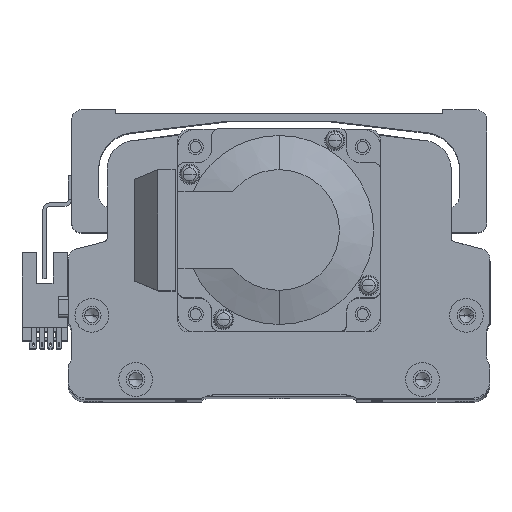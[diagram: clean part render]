
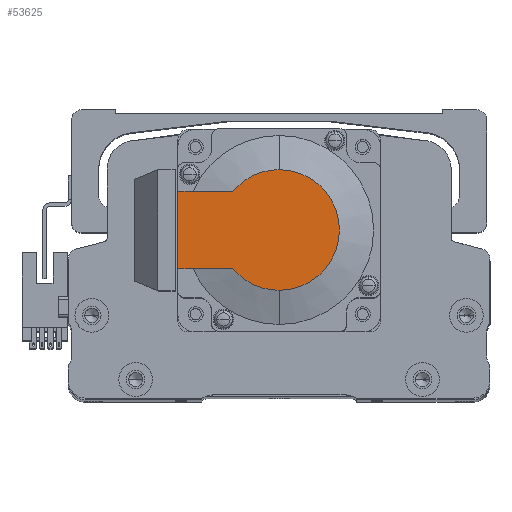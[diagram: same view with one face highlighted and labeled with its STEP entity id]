
A CAD part, top view. The second image highlights one B-rep face of the part: STEP entity #53625.
In plain terms, the highlighted planar face has unit normal (0, 0, 1) as drawn and (-1, 0, 0) by its records, which use the part's own axes.
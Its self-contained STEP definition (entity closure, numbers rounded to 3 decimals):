
#953 = CARTESIAN_POINT ( 'NONE',  ( -118.5, 0., -17.881 ) ) ;
#1010 = ORIENTED_EDGE ( 'NONE', *, *, #7577, .F. ) ;
#1245 = VERTEX_POINT ( 'NONE', #33667 ) ;
#1282 = VERTEX_POINT ( 'NONE', #38032 ) ;
#1328 = VERTEX_POINT ( 'NONE', #953 ) ;
#6168 = CARTESIAN_POINT ( 'NONE',  ( -118.5, -8.941, -11.45 ) ) ;
#7577 = EDGE_CURVE ( 'NONE', #19154, #25375, #23321, .T. ) ;
#8076 = EDGE_LOOP ( 'NONE', ( #22632, #39173, #29599, #47673, #1010, #25500 ) ) ;
#8779 = CIRCLE ( 'NONE', #36543, 17.881 ) ;
#8906 = EDGE_CURVE ( 'NONE', #1282, #25375, #8779, .T. ) ;
#9029 = CARTESIAN_POINT ( 'NONE',  ( -118.5, 0., 11.45 ) ) ;
#11225 = DIRECTION ( 'NONE',  ( -1., 0., 0. ) ) ;
#12303 = VECTOR ( 'NONE', #13178, 1000. ) ;
#13178 = DIRECTION ( 'NONE',  ( 0., -1., 0. ) ) ;
#13303 = EDGE_CURVE ( 'NONE', #38172, #1245, #53364, .T. ) ;
#13478 = AXIS2_PLACEMENT_3D ( 'NONE', #17350, #46372, #21508 ) ;
#14321 = FACE_OUTER_BOUND ( 'NONE', #8076, .T. ) ;
#15209 = CARTESIAN_POINT ( 'NONE',  ( -118.5, 30., 11.45 ) ) ;
#16187 = CARTESIAN_POINT ( 'NONE',  ( -118.5, 0., 0. ) ) ;
#17350 = CARTESIAN_POINT ( 'NONE',  ( -118.5, -8.941, 0. ) ) ;
#19154 = VERTEX_POINT ( 'NONE', #15209 ) ;
#19770 = CIRCLE ( 'NONE', #36754, 17.881 ) ;
#20370 = DIRECTION ( 'NONE',  ( 0., 0., -1. ) ) ;
#21349 = PLANE ( 'NONE',  #13478 ) ;
#21508 = DIRECTION ( 'NONE',  ( 0., 0., 1. ) ) ;
#21891 = CARTESIAN_POINT ( 'NONE',  ( -118.5, 0., 0. ) ) ;
#22632 = ORIENTED_EDGE ( 'NONE', *, *, #13303, .T. ) ;
#22896 = DIRECTION ( 'NONE',  ( 0., -1., 0. ) ) ;
#23231 = CIRCLE ( 'NONE', #37759, 17.881 ) ;
#23321 = LINE ( 'NONE', #9029, #12303 ) ;
#24669 = EDGE_CURVE ( 'NONE', #1328, #1282, #19770, .T. ) ;
#25375 = VERTEX_POINT ( 'NONE', #45005 ) ;
#25500 = ORIENTED_EDGE ( 'NONE', *, *, #48379, .F. ) ;
#26001 = DIRECTION ( 'NONE',  ( 0., 0., -1. ) ) ;
#29599 = ORIENTED_EDGE ( 'NONE', *, *, #24669, .T. ) ;
#33667 = CARTESIAN_POINT ( 'NONE',  ( -118.5, 13.735, -11.45 ) ) ;
#34572 = EDGE_CURVE ( 'NONE', #1245, #1328, #23231, .T. ) ;
#35617 = LINE ( 'NONE', #39399, #45403 ) ;
#36041 = CARTESIAN_POINT ( 'NONE',  ( -118.5, 0., 0. ) ) ;
#36543 = AXIS2_PLACEMENT_3D ( 'NONE', #21891, #50946, #26001 ) ;
#36754 = AXIS2_PLACEMENT_3D ( 'NONE', #36041, #11225, #40260 ) ;
#37759 = AXIS2_PLACEMENT_3D ( 'NONE', #16187, #45222, #20370 ) ;
#38032 = CARTESIAN_POINT ( 'NONE',  ( -118.5, 0., 17.881 ) ) ;
#38172 = VERTEX_POINT ( 'NONE', #41365 ) ;
#39173 = ORIENTED_EDGE ( 'NONE', *, *, #34572, .T. ) ;
#39399 = CARTESIAN_POINT ( 'NONE',  ( -118.5, 30., 25. ) ) ;
#40260 = DIRECTION ( 'NONE',  ( 0., 0., -1. ) ) ;
#40978 = VECTOR ( 'NONE', #22896, 1000. ) ;
#41365 = CARTESIAN_POINT ( 'NONE',  ( -118.5, 30., -11.45 ) ) ;
#43587 = DIRECTION ( 'NONE',  ( 0., 0., 1. ) ) ;
#45005 = CARTESIAN_POINT ( 'NONE',  ( -118.5, 13.735, 11.45 ) ) ;
#45222 = DIRECTION ( 'NONE',  ( -1., 0., 0. ) ) ;
#45403 = VECTOR ( 'NONE', #43587, 1000. ) ;
#46372 = DIRECTION ( 'NONE',  ( -1., 0., 0. ) ) ;
#47673 = ORIENTED_EDGE ( 'NONE', *, *, #8906, .T. ) ;
#48379 = EDGE_CURVE ( 'NONE', #38172, #19154, #35617, .T. ) ;
#50946 = DIRECTION ( 'NONE',  ( -1., 0., 0. ) ) ;
#53364 = LINE ( 'NONE', #6168, #40978 ) ;
#53625 = ADVANCED_FACE ( 'NONE', ( #14321 ), #21349, .T. ) ;
